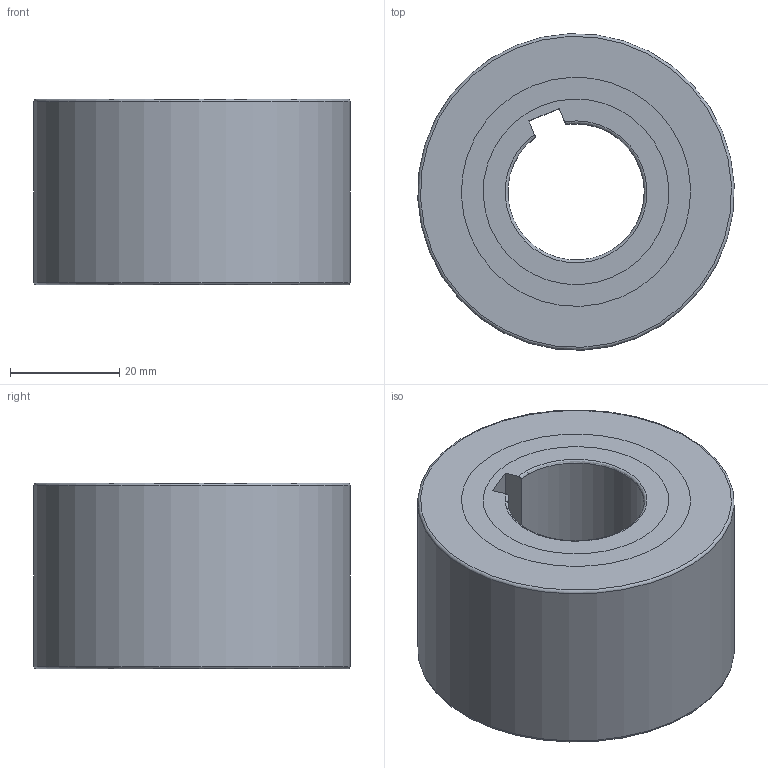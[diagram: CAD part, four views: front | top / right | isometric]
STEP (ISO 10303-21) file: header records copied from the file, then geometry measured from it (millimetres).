
FILE_DESCRIPTION(/* description */ (''),/* implementation_level */ '2;1');
FILE_NAME(/* name */ '300751 FND 453 M.stp',/* time_stamp */ '2016-11-17T08:05:36+01:00',/* author */ (''),/* organization */ (''),/* preprocessor_version */ 'ST-DEVELOPER v15',/* originating_system */ 'SIEMENS PLM Software NX 8.5',/* authorisation */ '');
FILE_SCHEMA (('CONFIG_CONTROL_DESIGN'));
Length unit declared in the file: millimetre
Products named in the file (3): ATE0000080_01; ATE0000091_01; ATE0000092_01
Assembly tree (2 placements, depth 2):
  ATE0000092_01
    ATE0000091_01
    ATE0000080_01
Bounding box: 57.94 x 57.94 x 34 mm (x, y, z)
Volume: 66463 mm3; surface area: 30415.7 mm2
Topology: 5 solids, 5 shells, 79 faces, 173 edges, 114 vertices
Faces by surface type: plane 49, cylinder 24, torus 6
Full cylindrical faces by diameter (mm): 34 x5, 38 x1, 40 x1, 41 x2, 42 x5, 58 x1
Entity records: 2408 total; most frequent: CARTESIAN_POINT 408, DIRECTION 374, ORIENTED_EDGE 292, AXIS2_PLACEMENT_3D 150, EDGE_CURVE 146, EDGE_LOOP 120, VERTEX_POINT 108, ADVANCED_FACE 79
